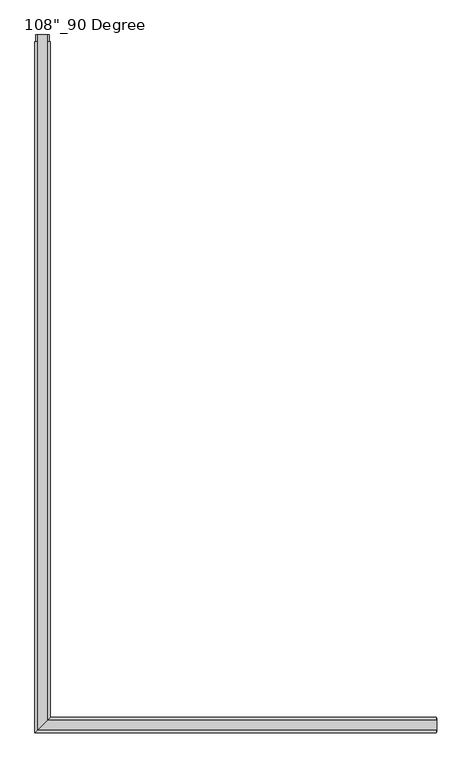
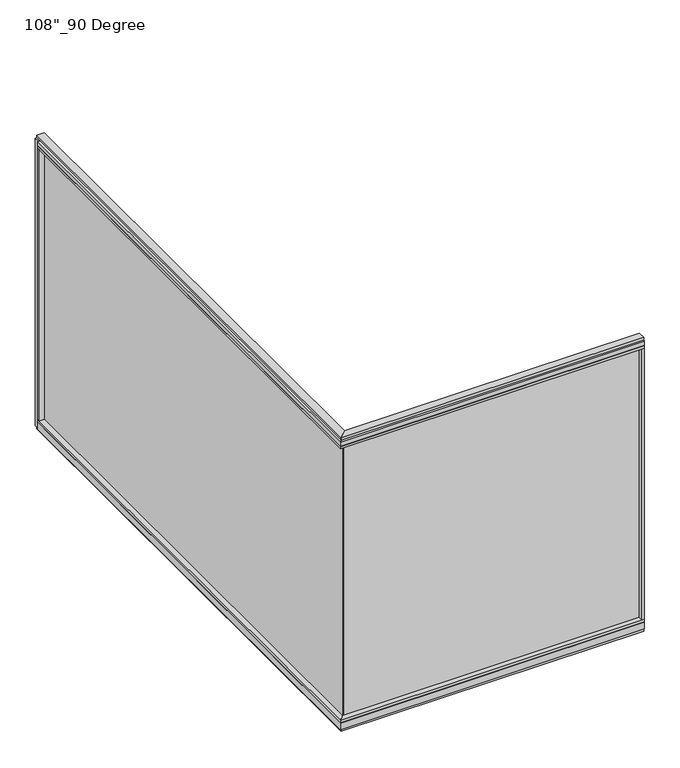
"""IFC4 building model written with IfcOpenShell, lengths in millimetres: furniture geometry."""

from ifc_helpers import new_model, si_unit, frame, origin, origin_with_axes, place, context, project, spatial, polyline, outline, extrude, faceted_brep, source, transform, mapped, element, save


def furniture_9e20f4e9(model_context):
    return source(origin(), model_context, "Body", "SolidModel", [
        extrude(outline(polyline([(-1360.5165229, 4554.0202784), (-1350.3565229, 4554.0202784), (-1350.3565229, -9.5977216), (-1360.5165229, -9.5977216), (-1360.5165229, 4554.0202784)])), frame((0.0, 0.0, 120.523), z_axis=(0.0, 0.0, 1.0), x_axis=(1.0, 0.0, 0.0)), (0.0, 0.0, 1.0), 2533.777),
        extrude(outline(polyline([(-1304.6365229, 4576.2452784), (-1304.6365229, 46.2822784), (-1406.2365229, -55.3177216), (-1406.2365229, 4576.2452784), (-1304.6365229, 4576.2452784)])), frame((0.0, 0.0, 2654.3), z_axis=(0.0, 0.0, 1.0), x_axis=(1.0, 0.0, 0.0)), (0.0, 0.0, 1.0), 22.225),
        faceted_brep([(-1304.6365229, 46.2822784, 2681.478), (-1304.6365229, 46.2822784, 2717.8), (-1406.2365229, -55.3177216, 2717.8), (-1406.2365229, -55.3177216, 2681.478), (-1401.2835229, -50.3647216, 2681.478), (-1401.2835229, -50.3647216, 2676.525), (-1309.5895229, 41.3292784, 2676.525), (-1309.5895229, 41.3292784, 2681.478), (-1304.6365229, 4576.2452784, 2681.478), (-1309.5895229, 4576.2452784, 2681.478), (-1309.5895229, 4576.2452784, 2676.525), (-1401.2835229, 4576.2452784, 2676.525), (-1401.2835229, 4576.2452784, 2681.478), (-1406.2365229, 4576.2452784, 2681.478), (-1406.2365229, 4576.2452784, 2717.8), (-1304.6365229, 4576.2452784, 2717.8)], [[[0, 1, 2, 3, 4, 5, 6, 7]], [[8, 9, 10, 11, 12, 13, 14, 15]], [[8, 0, 7, 9]], [[13, 3, 2, 14]], [[14, 2, 1, 15]], [[15, 1, 0, 8]], [[9, 7, 6, 10]], [[10, 6, 5, 11]], [[11, 5, 4, 12]], [[12, 4, 3, 13]]]),
        extrude(outline(polyline([(-1322.9245229, 4623.1082784), (-1322.9245229, 27.9942784), (-1387.9485229, -37.0297216), (-1387.9485229, 4623.1082784), (-1322.9245229, 4623.1082784)])), frame((0.0, 0.0, 2717.8), z_axis=(0.0, 0.0, 1.0), x_axis=(1.0, 0.0, 0.0)), (0.0, 0.0, 1.0), 25.4),
        faceted_brep([(-1309.5895229, 41.3292784, 93.345), (-1309.5895229, 41.3292784, 98.298), (-1401.2835229, -50.3647216, 98.298), (-1401.2835229, -50.3647216, 93.345), (-1406.2365229, -55.3177216, 93.345), (-1406.2365229, -55.3177216, 31.75), (-1304.6365229, 46.2822784, 31.75), (-1304.6365229, 46.2822784, 93.345), (-1304.6365229, 4576.2452784, 93.345), (-1304.6365229, 4576.2452784, 31.75), (-1406.2365229, 4576.2452784, 31.75), (-1406.2365229, 4576.2452784, 93.345), (-1401.2835229, 4576.2452784, 93.345), (-1401.2835229, 4576.2452784, 98.298), (-1309.5895229, 4576.2452784, 98.298), (-1309.5895229, 4576.2452784, 93.345)], [[[0, 1, 2, 3, 4, 5, 6, 7]], [[8, 9, 10, 11, 12, 13, 14, 15]], [[15, 0, 7, 8]], [[10, 5, 4, 11]], [[9, 6, 5, 10]], [[8, 7, 6, 9]], [[14, 1, 0, 15]], [[13, 2, 1, 14]], [[12, 3, 2, 13]], [[11, 4, 3, 12]]]),
        extrude(outline(polyline([(-1304.6365229, 4576.2452784), (-1304.6365229, 46.2822784), (-1406.2365229, -55.3177216), (-1406.2365229, 4576.2452784), (-1304.6365229, 4576.2452784)])), frame((0.0, 0.0, 98.298), z_axis=(0.0, 0.0, 1.0), x_axis=(1.0, 0.0, 0.0)), (0.0, 0.0, 1.0), 22.225),
        extrude(outline(polyline([(-1322.9245229, 4623.1082784), (-1322.9245229, 27.9942784), (-1387.9485229, -37.0297216), (-1387.9485229, 4623.1082784), (-1322.9245229, 4623.1082784)])), origin_with_axes(), (0.0, 0.0, 1.0), 31.75),
        extrude(outline(polyline([(-1406.2365229, 4554.0202784), (-1406.2365229, 4576.2452784), (-1304.6365229, 4576.2452784), (-1304.6365229, 4554.0202784), (-1406.2365229, 4554.0202784)])), frame((0.0, 0.0, 120.523), z_axis=(0.0, 0.0, 1.0), x_axis=(1.0, 0.0, 0.0)), (0.0, 0.0, 1.0), 2533.777),
        extrude(outline(polyline([(-1401.2835229, 4623.1082784), (-1309.5895229, 4623.1082784), (-1309.5895229, 4576.2452784), (-1401.2835229, 4576.2452784), (-1401.2835229, 4623.1082784)])), frame((0.0, 0.0, 31.75), z_axis=(0.0, 0.0, 1.0), x_axis=(1.0, 0.0, 0.0)), (0.0, 0.0, 1.0), 2686.05),
        extrude(outline(polyline([(1260.0014771, -9.5977216), (-1360.5165229, -9.5977216), (-1360.5165229, 0.5622784), (1260.0014771, 0.5622784), (1260.0014771, -9.5977216)])), frame((0.0, 0.0, 120.523), z_axis=(0.0, 0.0, 1.0), x_axis=(1.0, 0.0, 0.0)), (0.0, 0.0, 1.0), 2533.777),
        extrude(outline(polyline([(1282.2264771, 46.2822784), (1282.2264771, -55.3177216), (-1406.2365229, -55.3177216), (-1304.6365229, 46.2822784), (1282.2264771, 46.2822784)])), frame((0.0, 0.0, 2654.3), z_axis=(0.0, 0.0, 1.0), x_axis=(1.0, 0.0, 0.0)), (0.0, 0.0, 1.0), 22.225),
        faceted_brep([(-1304.6365229, 46.2822784, 2681.478), (-1309.5895229, 41.3292784, 2681.478), (-1309.5895229, 41.3292784, 2676.525), (-1401.2835229, -50.3647216, 2676.525), (-1401.2835229, -50.3647216, 2681.478), (-1406.2365229, -55.3177216, 2681.478), (-1406.2365229, -55.3177216, 2717.8), (-1304.6365229, 46.2822784, 2717.8), (1282.2264771, 46.2822784, 2681.478), (1282.2264771, 46.2822784, 2717.8), (1282.2264771, -55.3177216, 2717.8), (1282.2264771, -55.3177216, 2681.478), (1282.2264771, -50.3647216, 2681.478), (1282.2264771, -50.3647216, 2676.525), (1282.2264771, 41.3292784, 2676.525), (1282.2264771, 41.3292784, 2681.478)], [[[0, 1, 2, 3, 4, 5, 6, 7]], [[8, 9, 10, 11, 12, 13, 14, 15]], [[8, 15, 1, 0]], [[11, 10, 6, 5]], [[10, 9, 7, 6]], [[9, 8, 0, 7]], [[15, 14, 2, 1]], [[14, 13, 3, 2]], [[13, 12, 4, 3]], [[12, 11, 5, 4]]]),
        extrude(outline(polyline([(1286.1634771, 27.9942784), (1286.1634771, -37.0297216), (-1387.9485229, -37.0297216), (-1322.9245229, 27.9942784), (1286.1634771, 27.9942784)])), frame((0.0, 0.0, 2717.8), z_axis=(0.0, 0.0, 1.0), x_axis=(1.0, 0.0, 0.0)), (0.0, 0.0, 1.0), 25.4),
        faceted_brep([(-1309.5895229, 41.3292784, 93.345), (-1304.6365229, 46.2822784, 93.345), (-1304.6365229, 46.2822784, 31.75), (-1406.2365229, -55.3177216, 31.75), (-1406.2365229, -55.3177216, 93.345), (-1401.2835229, -50.3647216, 93.345), (-1401.2835229, -50.3647216, 98.298), (-1309.5895229, 41.3292784, 98.298), (1282.2264771, 46.2822784, 93.345), (1282.2264771, 41.3292784, 93.345), (1282.2264771, 41.3292784, 98.298), (1282.2264771, -50.3647216, 98.298), (1282.2264771, -50.3647216, 93.345), (1282.2264771, -55.3177216, 93.345), (1282.2264771, -55.3177216, 31.75), (1282.2264771, 46.2822784, 31.75)], [[[0, 1, 2, 3, 4, 5, 6, 7]], [[8, 9, 10, 11, 12, 13, 14, 15]], [[9, 8, 1, 0]], [[14, 13, 4, 3]], [[15, 14, 3, 2]], [[8, 15, 2, 1]], [[10, 9, 0, 7]], [[11, 10, 7, 6]], [[12, 11, 6, 5]], [[13, 12, 5, 4]]]),
        extrude(outline(polyline([(1282.2264771, 46.2822784), (1282.2264771, -55.3177216), (-1406.2365229, -55.3177216), (-1304.6365229, 46.2822784), (1282.2264771, 46.2822784)])), frame((0.0, 0.0, 98.298), z_axis=(0.0, 0.0, 1.0), x_axis=(1.0, 0.0, 0.0)), (0.0, 0.0, 1.0), 22.225),
        extrude(outline(polyline([(1286.1634771, 27.9942784), (1286.1634771, -37.0297216), (-1387.9485229, -37.0297216), (-1322.9245229, 27.9942784), (1286.1634771, 27.9942784)])), origin_with_axes(), (0.0, 0.0, 1.0), 31.75),
        extrude(outline(polyline([(1260.0014771, -55.3177216), (1260.0014771, 46.2822784), (1282.2264771, 46.2822784), (1282.2264771, -55.3177216), (1260.0014771, -55.3177216)])), frame((0.0, 0.0, 120.523), z_axis=(0.0, 0.0, 1.0), x_axis=(1.0, 0.0, 0.0)), (0.0, 0.0, 1.0), 2533.777),
        extrude(outline(polyline([(1286.1634771, -50.3647216), (1282.2264771, -50.3647216), (1282.2264771, 41.3292784), (1286.1634771, 41.3292784), (1286.1634771, -50.3647216)])), frame((0.0, 0.0, 31.75), z_axis=(0.0, 0.0, 1.0), x_axis=(1.0, 0.0, 0.0)), (0.0, 0.0, 1.0), 2686.05),
    ])


if __name__ == "__main__":
    model = new_model("IFC4")
    model_context = context("Model", 3, world=origin())
    ifc_project = project(units=[si_unit("LENGTHUNIT", "METRE", prefix="MILLI")], contexts=[model_context])
    site = spatial("IfcSite", under=ifc_project)
    building = spatial("IfcBuilding", under=site)
    placement = place(None, origin())
    furniture_shape = furniture_9e20f4e9(model_context)
    element("IfcFurniture", 1, ObjectType="Haworth_Enclose_Wall_GlassCorner : 108\"_90 Degree", at=placement, inside=building, context=model_context, shape_type="MappedRepresentation", body=[
        mapped(furniture_shape, transform((0.0, 0.0, 0.0), x_axis=(1.0, 0.0, 0.0), y_axis=(0.0, 1.0, 0.0), z_axis=(0.0, 0.0, 1.0))),
    ])
    save(model, "model.ifc")
